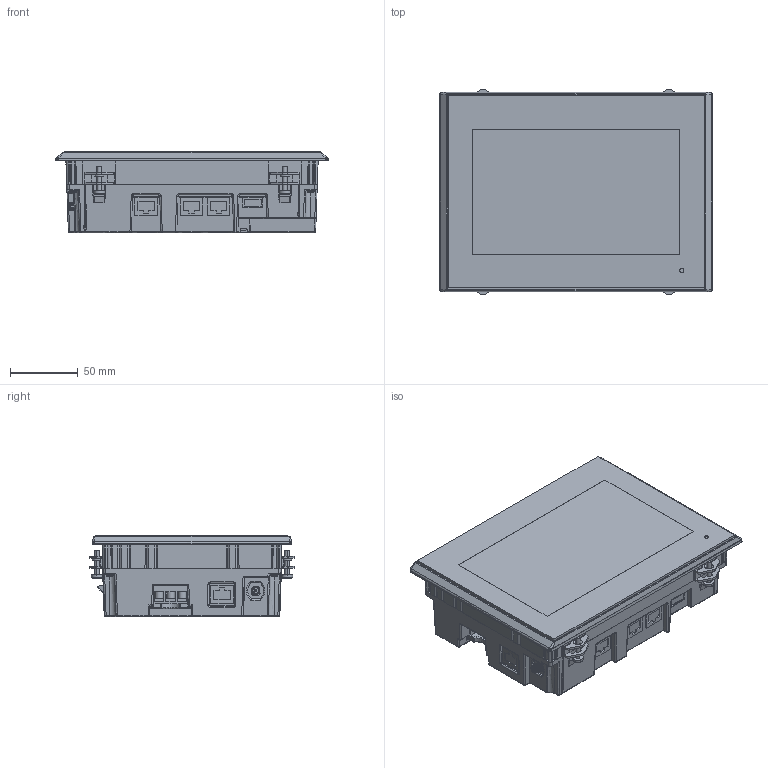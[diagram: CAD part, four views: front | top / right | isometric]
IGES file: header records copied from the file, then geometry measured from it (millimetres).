
Start section:  PTC IGES file: v9071iwrld_3d-data.igs
Global section: file name: v9071iwrld_3d-data.igs; native system: Pro/ENGINEER by Parametric Technology Corporation; preprocessor: 2011330; author: oda; organization: Unknown; date: 20150203.100125; units: millimetre
Bounding box: 201.6 x 151.6 x 60.3 mm (x, y, z)
Surface area: 112829.8 mm2 (no closed solid volume)
Topology: 0 solids, 0 shells, 1902 faces, 10108 edges, 10105 vertices
Faces by surface type: bspline 1342, revolution 560
